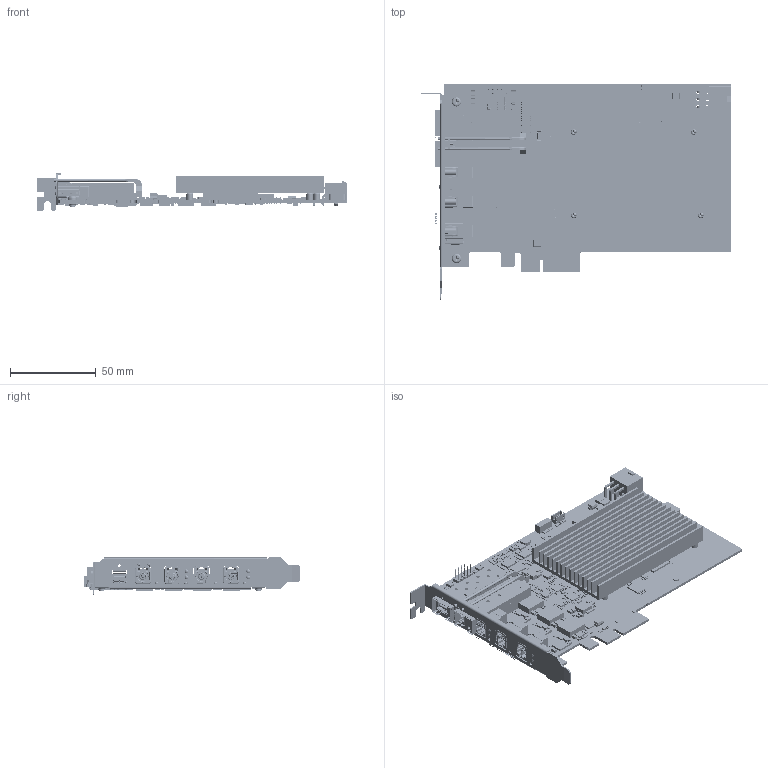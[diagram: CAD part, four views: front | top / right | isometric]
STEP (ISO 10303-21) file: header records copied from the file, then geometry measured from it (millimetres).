
FILE_DESCRIPTION((''),'2;1');
FILE_NAME('DE-20-049704_ASM','2026-08-04T14:49:31',('wuxin28'),(''),'CREO PARAMETRIC BY PTC INC, 2020044','CREO PARAMETRIC BY PTC INC, 2020044','');
FILE_SCHEMA(('CONFIG_CONTROL_DESIGN'));
Products named in the file (8): MV-GA1004; PCB-MV-20263-REV1_1_ASM; DE-11-155731; DA-19-001491; DE-15-002542; SC-PM2X4_5NL-B; SC-P0M3X4-GB818; DE-20-049704_ASM
Assembly tree (11 placements, depth 3):
  DE-20-049704_ASM
    PCB-MV-20263-REV1_1_ASM
      MV-GA1004
    DE-11-155731
    DA-19-001491
    DE-15-002542
    SC-PM2X4_5NL-B  x4
    SC-P0M3X4-GB818  x2
Bounding box: 180.98 x 126.31 x 21.59 mm (x, y, z)
Volume: 37594.8 mm3; surface area: 114778.4 mm2
Topology: 1606 solids, 1657 shells, 30090 faces, 74410 edges, 48663 vertices
Faces by surface type: plane 25458, cylinder 3435, sphere 340, bspline 304, torus 283, cone 188, extrusion 74, revolution 8
Entity records: 891695 total; most frequent: CARTESIAN_POINT 184217, ORIENTED_EDGE 145693, DIRECTION 138070, EDGE_CURVE 73516, VECTOR 64230, LINE 64156, VERTEX_POINT 48315, AXIS2_PLACEMENT_3D 36916
